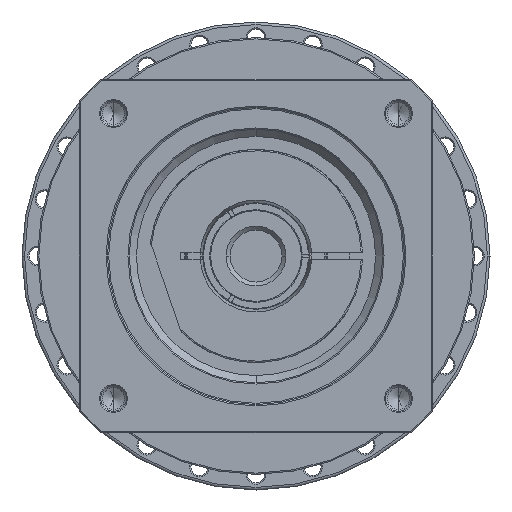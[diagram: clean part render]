
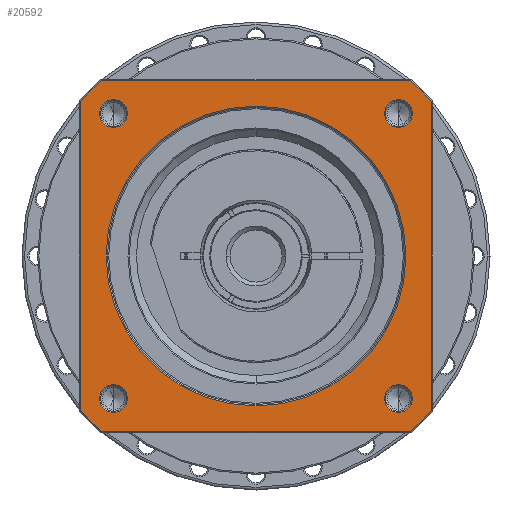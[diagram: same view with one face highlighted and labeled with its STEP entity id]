
A CAD part, left-side view. The second image highlights one B-rep face of the part: STEP entity #20592.
In plain terms, the highlighted planar face has unit normal (-1, 0, 0) as drawn and (0, 0, 1) by its records, which use the part's own axes.
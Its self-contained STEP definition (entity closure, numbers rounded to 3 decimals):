
#19323=DIRECTION('',(1.,0.,0.));
#19324=VECTOR('',#19323,119.059);
#19325=CARTESIAN_POINT('',(-59.529,-67.5,41.));
#19326=LINE('',#19325,#19324);
#19336=CARTESIAN_POINT('',(0.,0.,
41.));
#19337=DIRECTION('',(0.,0.,-1.));
#19338=DIRECTION('',(0.,-1.,0.));
#19339=AXIS2_PLACEMENT_3D('',#19336,#19337,#19338);
#19341=CARTESIAN_POINT('',(0.,0.,
41.));
#19342=DIRECTION('',(0.,0.,-1.));
#19343=DIRECTION('',(0.,1.,0.));
#19344=AXIS2_PLACEMENT_3D('',#19341,#19342,#19343);
#19346=CARTESIAN_POINT('',(0.,0.,41.));
#19347=DIRECTION('',(0.,0.,1.));
#19348=DIRECTION('',(-0.75,-0.661,0.));
#19349=AXIS2_PLACEMENT_3D('',#19346,#19347,#19348);
#19361=DIRECTION('',(0.,-1.,0.));
#19362=VECTOR('',#19361,119.059);
#19363=CARTESIAN_POINT('',(-67.5,59.529,41.));
#19364=LINE('',#19363,#19362);
#19374=CARTESIAN_POINT('',(0.,0.,41.));
#19375=DIRECTION('',(0.,0.,1.));
#19376=DIRECTION('',(-0.661,0.75,0.));
#19377=AXIS2_PLACEMENT_3D('',#19374,#19375,#19376);
#19402=DIRECTION('',(-1.,0.,0.));
#19403=VECTOR('',#19402,119.059);
#19404=CARTESIAN_POINT('',(59.529,67.5,41.));
#19405=LINE('',#19404,#19403);
#19410=CARTESIAN_POINT('',(0.,0.,41.));
#19411=DIRECTION('',(0.,0.,1.));
#19412=DIRECTION('',(0.75,0.661,0.));
#19413=AXIS2_PLACEMENT_3D('',#19410,#19411,#19412);
#19425=DIRECTION('',(0.,1.,0.));
#19426=VECTOR('',#19425,119.059);
#19427=CARTESIAN_POINT('',(67.5,-59.529,41.));
#19428=LINE('',#19427,#19426);
#19530=CARTESIAN_POINT('',(0.,0.,41.));
#19531=DIRECTION('',(0.,0.,1.));
#19532=DIRECTION('',(0.661,-0.75,0.));
#19533=AXIS2_PLACEMENT_3D('',#19530,#19531,#19532);
#19809=CARTESIAN_POINT('',(-54.801,54.801,41.));
#19810=DIRECTION('',(0.,0.,1.));
#19811=DIRECTION('',(-1.,0.,0.));
#19812=AXIS2_PLACEMENT_3D('',#19809,#19810,#19811);
#19827=CARTESIAN_POINT('',(-54.801,54.801,41.));
#19828=DIRECTION('',(0.,0.,1.));
#19829=DIRECTION('',(1.,0.,0.));
#19830=AXIS2_PLACEMENT_3D('',#19827,#19828,#19829);
#19863=CARTESIAN_POINT('',(54.801,54.801,41.));
#19864=DIRECTION('',(0.,0.,1.));
#19865=DIRECTION('',(-1.,0.,0.));
#19866=AXIS2_PLACEMENT_3D('',#19863,#19864,#19865);
#19881=CARTESIAN_POINT('',(54.801,54.801,41.));
#19882=DIRECTION('',(0.,0.,1.));
#19883=DIRECTION('',(1.,0.,0.));
#19884=AXIS2_PLACEMENT_3D('',#19881,#19882,#19883);
#19917=CARTESIAN_POINT('',(54.801,-54.801,41.));
#19918=DIRECTION('',(0.,0.,1.));
#19919=DIRECTION('',(-1.,0.,0.));
#19920=AXIS2_PLACEMENT_3D('',#19917,#19918,#19919);
#19935=CARTESIAN_POINT('',(54.801,-54.801,41.));
#19936=DIRECTION('',(0.,0.,1.));
#19937=DIRECTION('',(1.,0.,0.));
#19938=AXIS2_PLACEMENT_3D('',#19935,#19936,#19937);
#19971=CARTESIAN_POINT('',(-54.801,-54.801,41.));
#19972=DIRECTION('',(0.,0.,1.));
#19973=DIRECTION('',(-1.,0.,0.));
#19974=AXIS2_PLACEMENT_3D('',#19971,#19972,#19973);
#19989=CARTESIAN_POINT('',(-54.801,-54.801,41.));
#19990=DIRECTION('',(0.,0.,1.));
#19991=DIRECTION('',(1.,0.,0.));
#19992=AXIS2_PLACEMENT_3D('',#19989,#19990,#19991);
#20033=CARTESIAN_POINT('',(67.5,-59.529,41.));
#20034=CARTESIAN_POINT('',(67.5,59.529,41.));
#20035=VERTEX_POINT('',#20033);
#20036=VERTEX_POINT('',#20034);
#20041=CARTESIAN_POINT('',(59.529,-67.5,41.));
#20042=VERTEX_POINT('',#20041);
#20045=CARTESIAN_POINT('',(-59.529,-67.5,41.));
#20046=VERTEX_POINT('',#20045);
#20049=CARTESIAN_POINT('',(-67.5,-59.529,41.));
#20050=VERTEX_POINT('',#20049);
#20053=CARTESIAN_POINT('',(-67.5,59.529,41.));
#20054=VERTEX_POINT('',#20053);
#20057=CARTESIAN_POINT('',(-59.529,67.5,41.));
#20058=VERTEX_POINT('',#20057);
#20061=CARTESIAN_POINT('',(59.529,67.5,41.));
#20062=VERTEX_POINT('',#20061);
#20111=CARTESIAN_POINT('',(-60.151,54.801,41.));
#20112=CARTESIAN_POINT('',(-49.451,54.801,41.));
#20113=VERTEX_POINT('',#20111);
#20114=VERTEX_POINT('',#20112);
#20145=CARTESIAN_POINT('',(60.151,54.801,41.));
#20146=CARTESIAN_POINT('',(49.451,54.801,41.));
#20147=VERTEX_POINT('',#20145);
#20148=VERTEX_POINT('',#20146);
#20153=CARTESIAN_POINT('',(60.151,-54.801,41.));
#20154=CARTESIAN_POINT('',(49.451,-54.801,41.));
#20155=VERTEX_POINT('',#20153);
#20156=VERTEX_POINT('',#20154);
#20161=CARTESIAN_POINT('',(-49.451,-54.801,41.));
#20162=CARTESIAN_POINT('',(-60.151,-54.801,41.));
#20163=VERTEX_POINT('',#20161);
#20164=VERTEX_POINT('',#20162);
#20169=CARTESIAN_POINT('',(0.,-57.65,41.));
#20170=CARTESIAN_POINT('',(0.,57.65,
41.));
#20171=VERTEX_POINT('',#20169);
#20172=VERTEX_POINT('',#20170);
#20540=CARTESIAN_POINT('',(0.,0.,41.));
#20541=DIRECTION('',(0.,0.,1.));
#20542=DIRECTION('',(1.,0.,0.));
#20543=AXIS2_PLACEMENT_3D('',#20540,#20541,#20542);
#20544=PLANE('',#20543);
#20546=ORIENTED_EDGE('',*,*,#20545,.F.);
#20548=ORIENTED_EDGE('',*,*,#20547,.F.);
#20550=ORIENTED_EDGE('',*,*,#20549,.F.);
#20552=ORIENTED_EDGE('',*,*,#20551,.F.);
#20554=ORIENTED_EDGE('',*,*,#20553,.F.);
#20556=ORIENTED_EDGE('',*,*,#20555,.F.);
#20558=ORIENTED_EDGE('',*,*,#20557,.F.);
#20559=ORIENTED_EDGE('',*,*,#20530,.F.);
#20560=EDGE_LOOP('',(#20546,#20548,#20550,#20552,#20554,#20556,#20558,#20559));
#20561=FACE_OUTER_BOUND('',#20560,.F.);
#20563=ORIENTED_EDGE('',*,*,#20562,.F.);
#20565=ORIENTED_EDGE('',*,*,#20564,.F.);
#20566=EDGE_LOOP('',(#20563,#20565));
#20567=FACE_BOUND('',#20566,.F.);
#20569=ORIENTED_EDGE('',*,*,#20568,.T.);
#20571=ORIENTED_EDGE('',*,*,#20570,.T.);
#20572=EDGE_LOOP('',(#20569,#20571));
#20573=FACE_BOUND('',#20572,.F.);
#20575=ORIENTED_EDGE('',*,*,#20574,.T.);
#20577=ORIENTED_EDGE('',*,*,#20576,.T.);
#20578=EDGE_LOOP('',(#20575,#20577));
#20579=FACE_BOUND('',#20578,.F.);
#20581=ORIENTED_EDGE('',*,*,#20580,.T.);
#20583=ORIENTED_EDGE('',*,*,#20582,.T.);
#20584=EDGE_LOOP('',(#20581,#20583));
#20585=FACE_BOUND('',#20584,.F.);
#20587=ORIENTED_EDGE('',*,*,#20586,.T.);
#20589=ORIENTED_EDGE('',*,*,#20588,.T.);
#20590=EDGE_LOOP('',(#20587,#20589));
#20591=FACE_BOUND('',#20590,.F.);
#20592=ADVANCED_FACE('',(#20561,#20567,#20573,#20579,#20585,#20591),#20544,.T.);
#19340=CIRCLE('',#19339,57.65);
#19345=CIRCLE('',#19344,57.65);
#19350=CIRCLE('',#19349,90.);
#19378=CIRCLE('',#19377,90.);
#19414=CIRCLE('',#19413,90.);
#19534=CIRCLE('',#19533,90.);
#19813=CIRCLE('',#19812,5.35);
#19831=CIRCLE('',#19830,5.35);
#19867=CIRCLE('',#19866,5.35);
#19885=CIRCLE('',#19884,5.35);
#19921=CIRCLE('',#19920,5.35);
#19939=CIRCLE('',#19938,5.35);
#19975=CIRCLE('',#19974,5.35);
#19993=CIRCLE('',#19992,5.35);
#20530=EDGE_CURVE('',#20046,#20042,#19326,.T.);
#20545=EDGE_CURVE('',#20050,#20046,#19350,.T.);
#20547=EDGE_CURVE('',#20054,#20050,#19364,.T.);
#20549=EDGE_CURVE('',#20058,#20054,#19378,.T.);
#20551=EDGE_CURVE('',#20062,#20058,#19405,.T.);
#20553=EDGE_CURVE('',#20036,#20062,#19414,.T.);
#20555=EDGE_CURVE('',#20035,#20036,#19428,.T.);
#20557=EDGE_CURVE('',#20042,#20035,#19534,.T.);
#20562=EDGE_CURVE('',#20171,#20172,#19340,.T.);
#20564=EDGE_CURVE('',#20172,#20171,#19345,.T.);
#20568=EDGE_CURVE('',#20113,#20114,#19813,.T.);
#20570=EDGE_CURVE('',#20114,#20113,#19831,.T.);
#20574=EDGE_CURVE('',#20148,#20147,#19867,.T.);
#20576=EDGE_CURVE('',#20147,#20148,#19885,.T.);
#20580=EDGE_CURVE('',#20156,#20155,#19921,.T.);
#20582=EDGE_CURVE('',#20155,#20156,#19939,.T.);
#20586=EDGE_CURVE('',#20164,#20163,#19975,.T.);
#20588=EDGE_CURVE('',#20163,#20164,#19993,.T.);
